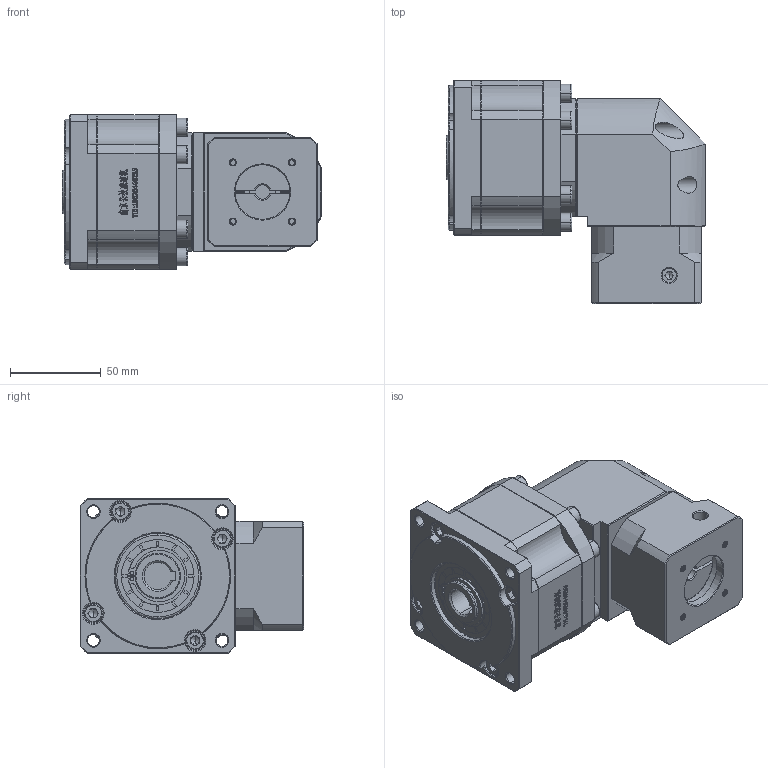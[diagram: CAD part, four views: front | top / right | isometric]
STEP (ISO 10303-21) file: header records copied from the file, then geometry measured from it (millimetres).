
FILE_DESCRIPTION (( 'STEP AP214' ), '1' );
FILE_NAME ('ZBR90-K15-L2-8-30-46-M4.step', '2022-05-07T15:25:03', ( '' ), ( 'Microsoft' ), 'SwSTEP 2.0', 'SolidWorks 2016', '' );
FILE_SCHEMA (( 'AUTOMOTIVE_DESIGN' ));
Length unit declared in the file: millimetre
Products named in the file (1): ZBR90-K15-L2-8-30-46-M4
Bounding box: 142.5 x 122.7 x 85 mm (x, y, z)
Volume: 789722.3 mm3; surface area: 99669.9 mm2
Topology: 5 solids, 5 shells, 3034 faces, 8175 edges, 5289 vertices
Faces by surface type: plane 1589, bspline 662, cylinder 402, cone 361, torus 20
Entity records: 178631 total; most frequent: CARTESIAN_POINT 73993, ORIENTED_EDGE 16278, DIRECTION 12341, EDGE_CURVE 8139, VERTEX_POINT 5289, LINE 5285, VECTOR 5285, AXIS2_PLACEMENT_3D 3528
